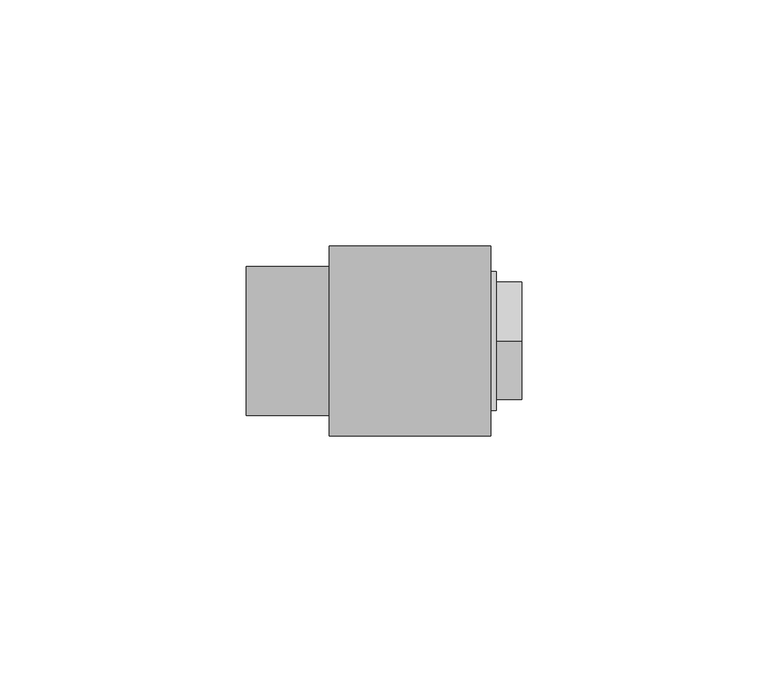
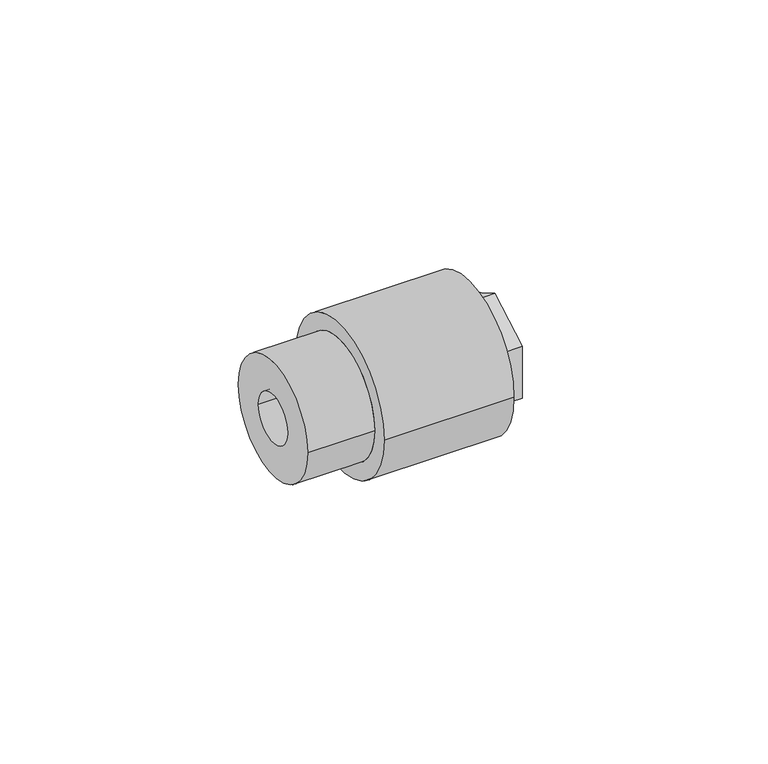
"""IFC4 building model written with IfcOpenShell, lengths in millimetres: pipe fitting geometry, Aquatherm - Fusion Outlet Transition Female : POTABLE BRASS - HEX."""

from ifc_helpers import new_model, si_unit, frame, origin, place, context, project, spatial, polyline, circle_curve, source, transform, mapped, element, save
from ifc_brep_helpers import plane_surface, cylinder_surface, revolved_surface, advanced_brep


def pipe_fitting_d0f1d544(model_context):
    return source(origin(), model_context, "Body", "AdvancedBrep", [
        advanced_brep(
        [(26.416, 9.525, 0.0), (26.416, -9.525, 0.0), (36.5363125, -9.525, 0.0), (36.5363125, 9.525, 0.0), (26.416, 10.31875, 0.0), (26.416, -10.31875, 0.0), (23.241, 10.31875, 0.0), (23.241, -10.31875, 0.0), (23.241, 6.35, 0.0), (23.241, -6.35, 0.0), (20.066, 6.35, 0.0), (20.066, -6.35, 0.0), (20.066, 15.113, 0.0), (20.066, -15.113, 0.0), (32.766, 15.113, 0.0), (32.766, -15.113, 0.0), (39.116, 10.31875, 0.0), (39.116, -10.31875, 0.0), (39.116, -11.938, 0.0), (39.116, -11.938, -6.8924075), (39.116, 0.0, -13.784815), (39.116, 11.938, -6.8924075), (39.116, 11.938, 0.0), (39.116, 11.938, 6.8924075), (39.116, 0.0, 13.784815), (39.116, -11.938, 6.8924075), (32.766, 14.097, 0.0), (32.766, -14.097, 0.0), (33.956625, 14.097, 0.0), (33.956625, -14.097, 0.0), (33.956625, 0.0, -13.784815), (33.956625, -11.938, -6.8924075), (33.956625, -11.938, 6.8924075), (33.956625, 0.0, 13.784815), (33.956625, 11.938, 6.8924075), (33.956625, 11.938, -6.8924075)],
        [
            (0, 1, circle_curve(frame((26.416, 0.0, 0.0), z_axis=(-1.0, 0.0, 0.0), x_axis=(0.0, -1.0, 0.0)), 9.525)),
            (1, 2),
            (2, 3, circle_curve(frame((36.5363125, 0.0, 0.0), z_axis=(1.0, 0.0, 0.0), x_axis=(0.0, -1.0, 0.0)), 9.525)),
            (3, 0),
            (1, 0, circle_curve(frame((26.416, 0.0, 0.0), z_axis=(-1.0, 0.0, 0.0), x_axis=(0.0, -1.0, 0.0)), 9.525)),
            (3, 2, circle_curve(frame((36.5363125, 0.0, 0.0), z_axis=(1.0, 0.0, 0.0), x_axis=(0.0, -1.0, 0.0)), 9.525)),
            (0, 4),
            (4, 5, circle_curve(frame((26.416, 0.0, 0.0), z_axis=(-1.0, 0.0, 0.0), x_axis=(0.0, -1.0, 0.0)), 10.31875)),
            (5, 1),
            (5, 4, circle_curve(frame((26.416, 0.0, 0.0), z_axis=(-1.0, 0.0, 0.0), x_axis=(0.0, -1.0, 0.0)), 10.31875)),
            (4, 6),
            (6, 7, circle_curve(frame((23.241, 0.0, 0.0), z_axis=(-1.0, 0.0, 0.0), x_axis=(0.0, -1.0, 0.0)), 10.31875)),
            (7, 5),
            (7, 6, circle_curve(frame((23.241, 0.0, 0.0), z_axis=(-1.0, 0.0, 0.0), x_axis=(0.0, -1.0, 0.0)), 10.31875)),
            (6, 8),
            (8, 9, circle_curve(frame((23.241, 0.0, 0.0), z_axis=(-1.0, 0.0, 0.0), x_axis=(0.0, -1.0, 0.0)), 6.35)),
            (9, 7),
            (9, 8, circle_curve(frame((23.241, 0.0, 0.0), z_axis=(-1.0, 0.0, 0.0), x_axis=(0.0, -1.0, 0.0)), 6.35)),
            (8, 10),
            (10, 11, circle_curve(frame((20.066, 0.0, 0.0), z_axis=(-1.0, 0.0, 0.0), x_axis=(0.0, -1.0, 0.0)), 6.35)),
            (11, 9),
            (11, 10, circle_curve(frame((20.066, 0.0, 0.0), z_axis=(-1.0, 0.0, 0.0), x_axis=(0.0, -1.0, 0.0)), 6.35)),
            (10, 12),
            (12, 13, circle_curve(frame((20.066, 0.0, 0.0), z_axis=(-1.0, 0.0, 0.0), x_axis=(0.0, -1.0, 0.0)), 15.113)),
            (13, 11),
            (13, 12, circle_curve(frame((20.066, 0.0, 0.0), z_axis=(-1.0, 0.0, 0.0), x_axis=(0.0, -1.0, 0.0)), 15.113)),
            (12, 14),
            (14, 15, circle_curve(frame((32.766, 0.0, 0.0), z_axis=(-1.0, 0.0, 0.0), x_axis=(0.0, -1.0, 0.0)), 15.113)),
            (15, 13),
            (15, 14, circle_curve(frame((32.766, 0.0, 0.0), z_axis=(-1.0, 0.0, 0.0), x_axis=(0.0, -1.0, 0.0)), 15.113)),
            (16, 17, circle_curve(frame((39.116, 0.0, 0.0), z_axis=(-1.0, 0.0, 0.0), x_axis=(0.0, -1.0, 0.0)), 10.31875)),
            (17, 18),
            (18, 19),
            (19, 20),
            (20, 21),
            (21, 22),
            (22, 16),
            (17, 16, circle_curve(frame((39.116, 0.0, 0.0), z_axis=(-1.0, 0.0, 0.0), x_axis=(0.0, -1.0, 0.0)), 10.31875)),
            (22, 23),
            (23, 24),
            (24, 25),
            (25, 18),
            (2, 17),
            (16, 3),
            (14, 26),
            (26, 27, circle_curve(frame((32.766, 0.0, 0.0), z_axis=(-1.0, 0.0, 0.0), x_axis=(0.0, -1.0, 0.0)), 14.097)),
            (27, 15),
            (27, 26, circle_curve(frame((32.766, 0.0, 0.0), z_axis=(-1.0, 0.0, 0.0), x_axis=(0.0, -1.0, 0.0)), 14.097)),
            (26, 28),
            (28, 29, circle_curve(frame((33.956625, 0.0, 0.0), z_axis=(-1.0, 0.0, 0.0), x_axis=(0.0, -1.0, 0.0)), 14.097)),
            (29, 27),
            (29, 28, circle_curve(frame((33.956625, 0.0, 0.0), z_axis=(-1.0, 0.0, 0.0), x_axis=(0.0, -1.0, 0.0)), 14.097)),
            (30, 31),
            (31, 32),
            (32, 33),
            (33, 34),
            (34, 35),
            (35, 30),
            (35, 21),
            (20, 30),
            (34, 23),
            (33, 24),
            (32, 25),
            (31, 19),
        ],
        [
            revolved_surface(polyline([(36.5363125, -9.525, 0.0), (26.416, -9.525, 0.0)]), (40.9492251, 0.0, 0.0), (1.0, 0.0, 0.0)),
            plane_surface(frame((26.416, 0.0, 0.0), z_axis=(-1.0, 0.0, 0.0), x_axis=(0.0, -1.0, 0.0))),
            revolved_surface(polyline([(26.416, -10.31875, 0.0), (23.241, -10.31875, 0.0)]), (40.9492251, 0.0, 0.0), (1.0, 0.0, 0.0)),
            plane_surface(frame((23.241, 0.0, 0.0), z_axis=(1.0, 0.0, 0.0), x_axis=(0.0, -1.0, 0.0))),
            revolved_surface(polyline([(23.241, -6.35, 0.0), (20.066, -6.35, 0.0)]), (40.9492251, 0.0, 0.0), (1.0, 0.0, 0.0)),
            plane_surface(frame((20.066, 0.0, 0.0), z_axis=(-1.0, 0.0, 0.0), x_axis=(0.0, -1.0, 0.0))),
            cylinder_surface(frame((40.9492251, 0.0, 0.0), z_axis=(1.0, 0.0, 0.0), x_axis=(0.0, -1.0, 0.0)), 15.113),
            plane_surface(frame((39.116, 0.0, 0.0), z_axis=(1.0, 0.0, 0.0), x_axis=(0.0, -1.0, 0.0))),
            revolved_surface(polyline([(39.116, -10.31875, 0.0), (36.5363125, -9.525, 0.0)]), (40.9492251, 0.0, 0.0), (1.0, 0.0, 0.0)),
            plane_surface(frame((32.766, 0.0, 0.0), z_axis=(1.0, 0.0, 0.0), x_axis=(0.0, -1.0, 0.0))),
            cylinder_surface(frame((40.9492251, 0.0, 0.0), z_axis=(1.0, 0.0, 0.0), x_axis=(0.0, -1.0, 0.0)), 14.097),
            plane_surface(frame((33.956625, 11.938, -6.8924075), z_axis=(1.0, 0.0, 0.0), x_axis=(0.0, 0.8660254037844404, 0.49999999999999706))),
            plane_surface(frame((33.956625, 0.0, -13.784815), z_axis=(0.0, 0.49999999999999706, -0.8660254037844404), x_axis=(1.0, 0.0, 0.0))),
            plane_surface(frame((33.956625, 11.938, -6.8924075), z_axis=(0.0, 1.0, 0.0), x_axis=(1.0, 0.0, 0.0))),
            plane_surface(frame((33.956625, 11.938, 6.8924075), z_axis=(0.0, 0.5000000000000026, 0.8660254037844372), x_axis=(1.0, 0.0, 0.0))),
            plane_surface(frame((33.956625, 0.0, 13.784815), z_axis=(0.0, -0.4999999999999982, 0.8660254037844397), x_axis=(1.0, 0.0, 0.0))),
            plane_surface(frame((33.956625, -11.938, 6.8924075), z_axis=(0.0, -1.0, 0.0), x_axis=(1.0, 0.0, 0.0))),
            plane_surface(frame((33.956625, -11.938, -6.8924075), z_axis=(0.0, -0.5000000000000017, -0.8660254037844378), x_axis=(1.0, 0.0, 0.0))),
        ],
        [
            (0, [[1, 2, 3, 4]]),
            (0, [[-2, 5, -4, 6]]),
            (1, [[-1, 7, 8, 9]]),
            (1, [[-5, -9, 10, -7]]),
            (2, [[-8, 11, 12, 13]]),
            (2, [[-10, -13, 14, -11]]),
            (3, [[-12, 15, 16, 17]]),
            (3, [[-14, -17, 18, -15]]),
            (4, [[-16, 19, 20, 21]]),
            (4, [[-18, -21, 22, -19]]),
            (5, [[-20, 23, 24, 25]]),
            (5, [[-22, -25, 26, -23]]),
            (6, [[-24, 27, 28, 29]]),
            (6, [[-26, -29, 30, -27]]),
            (7, [[31, 32, 33, 34, 35, 36, 37]]),
            (7, [[38, -37, 39, 40, 41, 42, -32]]),
            (8, [[-3, 43, -31, 44]]),
            (8, [[-6, -44, -38, -43]]),
            (9, [[-28, 45, 46, 47]]),
            (9, [[-30, -47, 48, -45]]),
            (10, [[-46, 49, 50, 51]]),
            (10, [[-48, -51, 52, -49]]),
            (11, [[-50, -52], [53, 54, 55, 56, 57, 58]]),
            (12, [[-58, 59, -35, 60]]),
            (13, [[-57, 61, -39, -36, -59]]),
            (14, [[-56, 62, -40, -61]]),
            (15, [[-55, 63, -41, -62]]),
            (16, [[-54, 64, -33, -42, -63]]),
            (17, [[-53, -60, -34, -64]]),
        ],
    ),
        advanced_brep(
        [(-16.8875676, 15.113, 0.0), (-16.8875676, -15.113, 0.0), (-16.8875676, 6.35, 0.0), (-16.8875676, -6.35, 0.0), (20.066, 15.113, 0.0), (20.066, -15.113, 0.0), (20.066, 6.35, 0.0), (20.066, -6.35, 0.0), (0.0, 15.113, 0.0), (0.0, -15.113, 0.0), (32.766, 19.304, 0.0), (32.766, -19.304, 0.0), (32.766, 15.113, 0.0), (32.766, -15.113, 0.0), (0.0, 19.304, 0.0), (0.0, -19.304, 0.0)],
        [
            (0, 1, circle_curve(frame((-16.8875676, 0.0, 0.0), z_axis=(-1.0, 0.0, 0.0), x_axis=(0.0, -1.0, 0.0)), 15.113)),
            (1, 0, circle_curve(frame((-16.8875676, 0.0, 0.0), z_axis=(-1.0, 0.0, 0.0), x_axis=(0.0, -1.0, 0.0)), 15.113)),
            (2, 3, circle_curve(frame((-16.8875676, 0.0, 0.0), z_axis=(1.0, 0.0, 0.0), x_axis=(0.0, -1.0, 0.0)), 6.35)),
            (3, 2, circle_curve(frame((-16.8875676, 0.0, 0.0), z_axis=(1.0, 0.0, 0.0), x_axis=(0.0, -1.0, 0.0)), 6.35)),
            (4, 5, circle_curve(frame((20.066, 0.0, 0.0), z_axis=(1.0, 0.0, 0.0), x_axis=(0.0, -1.0, 0.0)), 15.113)),
            (5, 4, circle_curve(frame((20.066, 0.0, 0.0), z_axis=(1.0, 0.0, 0.0), x_axis=(0.0, -1.0, 0.0)), 15.113)),
            (6, 7, circle_curve(frame((20.066, 0.0, 0.0), z_axis=(-1.0, 0.0, 0.0), x_axis=(0.0, -1.0, 0.0)), 6.35)),
            (7, 6, circle_curve(frame((20.066, 0.0, 0.0), z_axis=(-1.0, 0.0, 0.0), x_axis=(0.0, -1.0, 0.0)), 6.35)),
            (2, 6),
            (7, 3),
            (0, 8),
            (8, 9, circle_curve(frame((0.0, 0.0, 0.0), z_axis=(-1.0, 0.0, 0.0), x_axis=(0.0, -1.0, 0.0)), 15.113)),
            (9, 1),
            (9, 8, circle_curve(frame((0.0, 0.0, 0.0), z_axis=(-1.0, 0.0, 0.0), x_axis=(0.0, -1.0, 0.0)), 15.113)),
            (10, 11, circle_curve(frame((32.766, 0.0, 0.0), z_axis=(1.0, 0.0, 0.0), x_axis=(0.0, -1.0, 0.0)), 19.304)),
            (11, 10, circle_curve(frame((32.766, 0.0, 0.0), z_axis=(1.0, 0.0, 0.0), x_axis=(0.0, -1.0, 0.0)), 19.304)),
            (12, 13, circle_curve(frame((32.766, 0.0, 0.0), z_axis=(-1.0, 0.0, 0.0), x_axis=(0.0, -1.0, 0.0)), 15.113)),
            (13, 12, circle_curve(frame((32.766, 0.0, 0.0), z_axis=(-1.0, 0.0, 0.0), x_axis=(0.0, -1.0, 0.0)), 15.113)),
            (14, 15, circle_curve(frame((0.0, 0.0, 0.0), z_axis=(-1.0, 0.0, 0.0), x_axis=(0.0, -1.0, 0.0)), 19.304)),
            (15, 14, circle_curve(frame((0.0, 0.0, 0.0), z_axis=(-1.0, 0.0, 0.0), x_axis=(0.0, -1.0, 0.0)), 19.304)),
            (13, 5),
            (4, 12),
            (11, 15),
            (14, 10),
        ],
        [
            plane_surface(frame((-16.8875676, -6.35, 0.0), z_axis=(-1.0, 0.0, 0.0), x_axis=(0.0, 0.0, -1.0))),
            plane_surface(frame((20.066, -6.35, 0.0), z_axis=(1.0, 0.0, 0.0), x_axis=(0.0, 0.0, 1.0))),
            revolved_surface(polyline([(20.066, -6.35, 0.0), (-16.8875676, -6.35, 0.0)]), (20.066, 0.0, 0.0), (1.0, 0.0, 0.0)),
            cylinder_surface(frame((0.0, 0.0, 0.0), z_axis=(-1.0, 0.0, 0.0), x_axis=(0.0, -1.0, 0.0)), 15.113),
            plane_surface(frame((32.766, -15.113, 0.0), z_axis=(1.0, 0.0, 0.0), x_axis=(0.0, 0.0, 1.0))),
            plane_surface(frame((0.0, -15.113, 0.0), z_axis=(-1.0, 0.0, 0.0), x_axis=(0.0, 0.0, -1.0))),
            revolved_surface(polyline([(32.766, -15.113, 0.0), (20.066, -15.113, 0.0)]), (32.766, 0.0, 0.0), (1.0, 0.0, 0.0)),
            cylinder_surface(frame((0.0, 0.0, 0.0), z_axis=(-1.0, 0.0, 0.0), x_axis=(0.0, -1.0, 0.0)), 19.304),
        ],
        [
            (0, [[1, 2], [3, 4]]),
            (1, [[5, 6], [7, 8]]),
            (2, [[-3, 9, -8, 10]]),
            (2, [[-4, -10, -7, -9]]),
            (3, [[-1, 11, 12, 13]]),
            (3, [[-2, -13, 14, -11]]),
            (4, [[15, 16], [17, 18]]),
            (5, [[19, 20], [-12, -14]]),
            (6, [[-18, 21, -5, 22]]),
            (6, [[-17, -22, -6, -21]]),
            (7, [[-16, 23, -19, 24]]),
            (7, [[-15, -24, -20, -23]]),
        ],
    ),
    ])


if __name__ == "__main__":
    model = new_model("IFC4")
    model_context = context("Model", 3, world=origin())
    ifc_project = project(units=[si_unit("LENGTHUNIT", "METRE", prefix="MILLI")], contexts=[model_context])
    site = spatial("IfcSite", under=ifc_project)
    building = spatial("IfcBuilding", under=site)
    placement = place(None, origin())
    pipe_fitting_shape = pipe_fitting_d0f1d544(model_context)
    element("IfcPipeFitting", 1, ObjectType="Aquatherm - Fusion Outlet Transition Female : POTABLE BRASS - HEX", at=placement, inside=building, context=model_context, shape_type="MappedRepresentation", body=[
        mapped(pipe_fitting_shape, transform((0.0, 0.0, 0.0), x_axis=(1.0, 0.0, 0.0), y_axis=(0.0, 1.0, 0.0), z_axis=(0.0, 0.0, 1.0))),
    ])
    save(model, "model.ifc")
